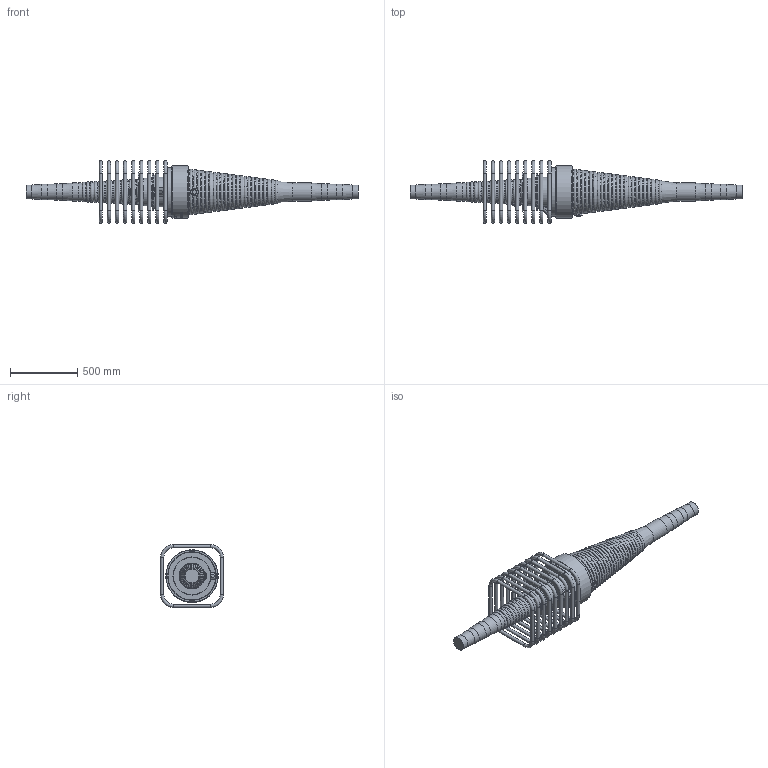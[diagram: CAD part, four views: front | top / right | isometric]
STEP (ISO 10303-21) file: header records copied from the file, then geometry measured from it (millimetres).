
FILE_DESCRIPTION(/* description */ (''),/* implementation_level */ '2;1');
FILE_NAME(/* name */ 'BBR VT CONA CMI BT 3106_Coupler K Assembly_CS-43,35 - Only Stirrup.stp',/* time_stamp */ '2025-04-17T15:18:14+02:00',/* author */ ('tk'),/* organization */ (''),/* preprocessor_version */ 'ST-DEVELOPER v20',/* originating_system */ 'Autodesk Inventor 2024',/* authorisation */ '');
FILE_SCHEMA (('AUTOMOTIVE_DESIGN { 1 0 10303 214 3 1 1 }'));
Products named in the file (1): BBR VT CONA CMI BT 3106_Coupler K Assembly_CS-43,35 - Only Stirrup
Bounding box: 2468.22 x 465 x 465 mm (x, y, z)
Volume: 90086087.9 mm3; surface area: 2901314 mm2
Topology: 10 solids, 10 shells, 1141 faces, 2977 edges, 1913 vertices
Faces by surface type: bspline 415, plane 362, torus 176, cylinder 137, cone 41, sphere 10
Full cylindrical faces by diameter (mm): 24 x36, 34 x1, 34.089 x1, 57 x1, 57.089 x1, 104 x2, 114 x2, 124 x2, 134 x2, 208 x1, 279 x1, 283 x1, 360 x1, 375 x1, 386 x1, 390 x1
Entity records: 47584 total; most frequent: CARTESIAN_POINT 20391, ORIENTED_EDGE 5942, DIRECTION 4572, EDGE_CURVE 2971, VERTEX_POINT 1913, AXIS2_PLACEMENT_3D 1716, EDGE_LOOP 1222, STYLED_ITEM 1151
